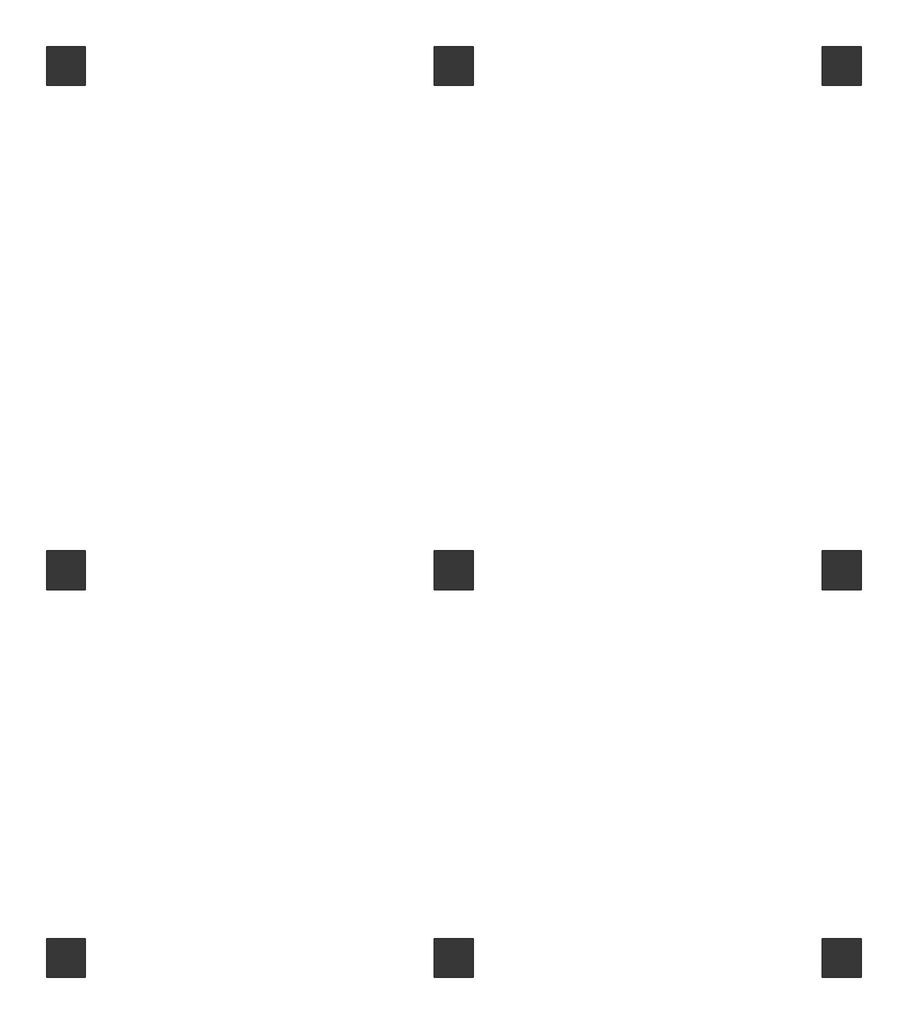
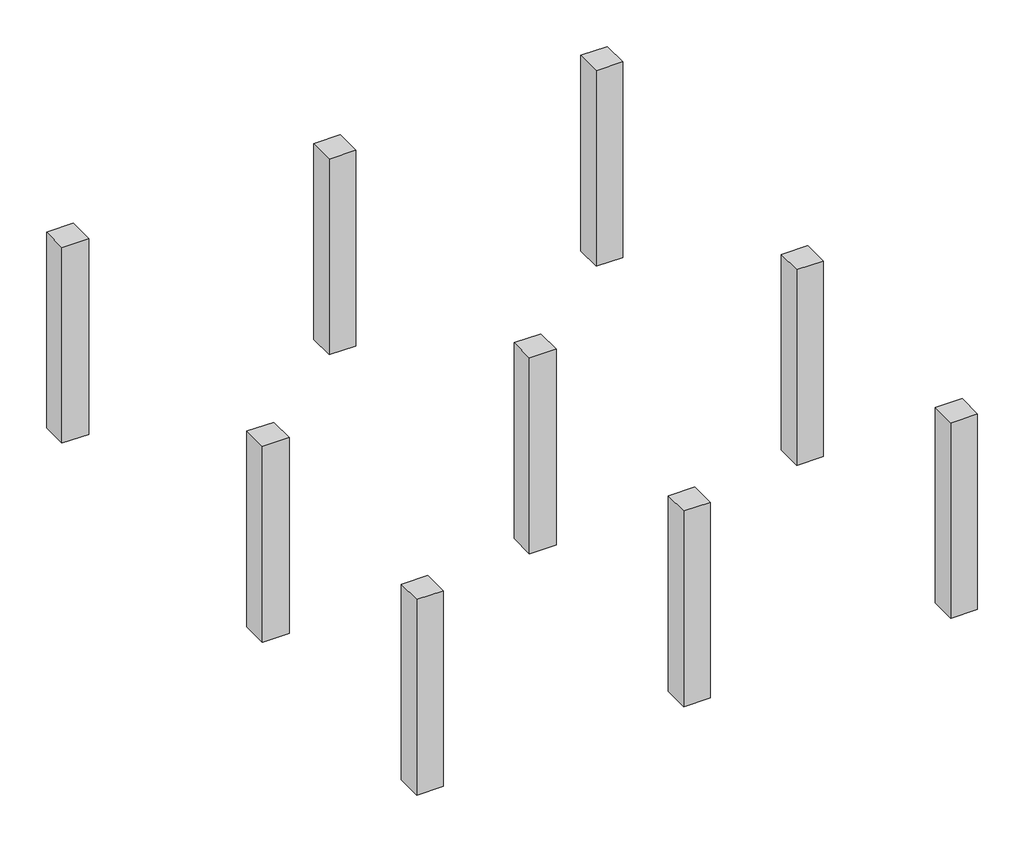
# One storey: 9 columns.
"""IFC4 building model written with IfcOpenShell, lengths in millimetres."""

import ifcopenshell
import ifcopenshell.guid

model = None  # the IFC model being written
_history = None  # IfcOwnerHistory: only IFC2X3 demands one
_inside = {}  # id of a spatial element -> (the spatial element, [elements in it])
_under = {}  # id of a project, library or spatial element -> (it, [spatial elements below it])
_declared = {}  # id of a project -> (the project, [libraries it declares])
_typed = {}  # id of a type object -> (the type object, [elements of that type])
_made_of = {}  # id of a material, layer set ... -> (it, [elements and type objects made of it])


def new_model(schema):
    """Start an empty IFC model of exactly this schema.

    Asked for "IFC4X3", IfcOpenShell would pick the latest addendum, in which some entities
    have other attributes; the version numbers below select the first issue.
    IFC2X3 requires an IfcOwnerHistory on every rooted entity: one is made here for all.
    """
    global model, _history
    if schema == "IFC4X3":
        model = ifcopenshell.file(schema_version=(4, 3, 0, 0))
    else:
        model = ifcopenshell.file(schema=schema)
    _inside.clear()
    _under.clear()
    _declared.clear()
    _typed.clear()
    _made_of.clear()
    _history = None
    if model.schema == "IFC2X3":
        org = make("IfcOrganization", Name="unknown")
        user = make(
            "IfcPersonAndOrganization",
            ThePerson=make("IfcPerson", FamilyName="unknown"),
            TheOrganization=org,
        )
        app = make(
            "IfcApplication",
            ApplicationDeveloper=org,
            Version="unknown",
            ApplicationFullName="unknown",
            ApplicationIdentifier="unknown",
        )
        _history = make(
            "IfcOwnerHistory",
            OwningUser=user,
            OwningApplication=app,
            ChangeAction="ADDED",
            CreationDate=0,
        )
    return model


def make(cls, **values):
    """One entity of the class cls with the attributes given. An attribute that is None is left unset."""
    return model.create_entity(
        cls, **{name: value for name, value in values.items() if value is not None}
    )


def rooted(cls, **values):
    """An entity with a GlobalId (a new one), such as an element, a storey or a relation."""
    return make(cls, GlobalId=ifcopenshell.guid.new(), OwnerHistory=_history, **values)


def si_unit(unit_type, name, prefix=None):
    """IfcSIUnit, for example si_unit("LENGTHUNIT", "METRE", prefix="MILLI")."""
    return make("IfcSIUnit", UnitType=unit_type, Prefix=prefix, Name=name)


def assignment(units):
    """IfcUnitAssignment: the units of a project."""
    return None if units is None else make("IfcUnitAssignment", Units=units)


def point(xyz):
    """IfcCartesianPoint."""
    return None if xyz is None else make("IfcCartesianPoint", Coordinates=xyz)


def direction(xyz):
    """IfcDirection."""
    return None if xyz is None else make("IfcDirection", DirectionRatios=xyz)


def frame(location, z_axis=None, x_axis=None):
    """IfcAxis2Placement3D, a coordinate frame: its origin and axes. An axis left out is left unset."""
    return make(
        "IfcAxis2Placement3D",
        Location=point(location),
        Axis=direction(z_axis),
        RefDirection=direction(x_axis),
    )


def origin():
    """The frame at (0, 0, 0) with its axes left unset."""
    return frame((0.0, 0.0, 0.0))


def place(relative_to, where):
    """IfcLocalPlacement: puts the frame where relative to a parent placement (None: the world)."""
    return make(
        "IfcLocalPlacement", PlacementRelTo=relative_to, RelativePlacement=where
    )


def context(
    kind, dimensions, precision=None, world=None, true_north=None, identifier=None
):
    """IfcGeometricRepresentationContext, for example the 3D "Model" context."""
    return make(
        "IfcGeometricRepresentationContext",
        ContextIdentifier=identifier,
        ContextType=kind,
        CoordinateSpaceDimension=dimensions,
        Precision=precision,
        WorldCoordinateSystem=world,
        TrueNorth=true_north,
    )


def project(units=None, contexts=None):
    """IfcProject with its units and contexts."""
    return rooted(
        "IfcProject",
        Name="project",
        RepresentationContexts=contexts,
        UnitsInContext=assignment(units),
    )


def spatial(cls, under=None, at=None, **own):
    """A site, building, storey or space (cls), placed at a placement, below another one or the project."""
    s = rooted(cls, ObjectPlacement=at, **own)
    if under is not None:
        _under.setdefault(under.id(), (under, []))[1].append(s)
    return s


def polyline(points):
    """IfcPolyline through the points."""
    return make("IfcPolyline", Points=[point(p) for p in points])


def outline(outer, holes=None, kind="AREA"):
    """IfcArbitraryClosedProfileDef: a profile drawn as a closed curve; with holes, ...WithVoids."""
    if holes is None:
        return make("IfcArbitraryClosedProfileDef", ProfileType=kind, OuterCurve=outer)
    return make(
        "IfcArbitraryProfileDefWithVoids",
        ProfileType=kind,
        OuterCurve=outer,
        InnerCurves=holes,
    )


def extrude(swept, where, along, depth):
    """IfcExtrudedAreaSolid: the profile swept, set in the frame where, extruded along a direction by depth."""
    return make(
        "IfcExtrudedAreaSolid",
        SweptArea=swept,
        Position=where,
        ExtrudedDirection=direction(along),
        Depth=depth,
    )


def shape(context_of_items, identifier, shape_type, items):
    """IfcShapeRepresentation: the items that make up one representation, for example the "Body"."""
    return make(
        "IfcShapeRepresentation",
        ContextOfItems=context_of_items,
        RepresentationIdentifier=identifier,
        RepresentationType=shape_type,
        Items=items,
    )


def made_of(thing, what):
    """Note that an element or type object is made of a material, layer set ...; save() writes the relation."""
    if what is not None:
        _made_of.setdefault(what.id(), (what, []))[1].append(thing)
    return thing


def element(
    cls,
    number,
    at=None,
    inside=None,
    cuts=None,
    type_object=None,
    material=None,
    context=None,
    identifier="Body",
    shape_type=None,
    held_by="IfcProductDefinitionShape",
    body=None,
    shapes=None,
    **own,
):
    """One element of the class cls, such as IfcWall. Its Tag is "e" and its number.

    at: its placement. inside: the storey or other place that contains it. cuts: it is an
    opening in that element (IfcRelVoidsElement). A single representation is given by context,
    identifier, shape_type and body (its items); several are given by shapes. held_by: the class
    of the entity that holds the representations. save() writes the other relations.
    """
    e = rooted(cls, Tag="e%d" % number, ObjectPlacement=at, **own)
    if body is not None:
        shapes = [shape(context, identifier, shape_type, body)]
    if shapes is not None:
        e.Representation = make(held_by, Representations=shapes)
    if inside is not None:
        _inside.setdefault(inside.id(), (inside, []))[1].append(e)
    if cuts is not None:
        rooted(
            "IfcRelVoidsElement", RelatingBuildingElement=cuts, RelatedOpeningElement=e
        )
    if type_object is not None:
        _typed.setdefault(type_object.id(), (type_object, []))[1].append(e)
    return made_of(e, material)


def aggregate(whole, parts):
    """IfcRelAggregates: a whole, such as a stair, and the parts it consists of."""
    return rooted("IfcRelAggregates", RelatingObject=whole, RelatedObjects=parts)


def save(model, path):
    """Write the relations noted so far, then the file.

    IfcRelAggregates (storeys below a building ...), IfcRelContainedInSpatialStructure (elements
    in a storey), IfcRelDefinesByType, IfcRelAssociatesMaterial and IfcRelDeclares: one each for
    every whole, place, type object, material and project.
    """
    for whole, parts in _under.values():
        aggregate(whole, parts)
    for where, things in _inside.values():
        rooted(
            "IfcRelContainedInSpatialStructure",
            RelatedElements=things,
            RelatingStructure=where,
        )
    for kind, things in _typed.values():
        rooted("IfcRelDefinesByType", RelatedObjects=things, RelatingType=kind)
    for what, things in _made_of.values():
        rooted("IfcRelAssociatesMaterial", RelatedObjects=things, RelatingMaterial=what)
    for by, libraries in _declared.values():
        rooted("IfcRelDeclares", RelatingContext=by, RelatedDefinitions=libraries)
    model.write(path)


model = new_model("IFC4")

# Units and contexts
model_context = context("Model", 3, world=origin())
ifc_project = project(units=[si_unit("LENGTHUNIT", "METRE", prefix="MILLI")], contexts=[model_context])

# Site, building, storey
site = spatial("IfcSite", under=ifc_project)
building = spatial("IfcBuilding", under=site)
storey = spatial("IfcBuildingStorey", under=building, Name="T.O.F", Elevation=-1676.4)

# Columns
placement = place(None, origin())
element("IfcColumn", 1, ObjectType="Concrete-Rectangular-Column : 24x24", at=placement, inside=storey, context=model_context, shape_type="SweptSolid", body=[
    extrude(outline(polyline([(-28959.8783408, 4197.4963551), (-28959.8783408, 4807.0963551), (-28350.2783408, 4807.0963551), (-28350.2783408, 4197.4963551), (-28959.8783408, 4197.4963551)])), frame((0.0, 0.0, -1676.4), z_axis=(0.0, 0.0, 1.0), x_axis=(1.0, 0.0, 0.0)), (0.0, 0.0, 1.0), 4724.4),
])
element("IfcColumn", 2, ObjectType="Concrete-Rectangular-Column : 24x24", at=placement, inside=storey, context=model_context, shape_type="SweptSolid", body=[
    extrude(outline(polyline([(-28959.8783408, -1898.5036449), (-28959.8783408, -1288.9036449), (-28350.2783408, -1288.9036449), (-28350.2783408, -1898.5036449), (-28959.8783408, -1898.5036449)])), frame((0.0, 0.0, -1676.4), z_axis=(0.0, 0.0, 1.0), x_axis=(1.0, 0.0, 0.0)), (0.0, 0.0, 1.0), 4724.4),
])
element("IfcColumn", 3, ObjectType="Concrete-Rectangular-Column : 24x24", at=placement, inside=storey, context=model_context, shape_type="SweptSolid", body=[
    extrude(outline(polyline([(-28959.8783408, 12122.2963551), (-28959.8783408, 12731.8963551), (-28350.2783408, 12731.8963551), (-28350.2783408, 12122.2963551), (-28959.8783408, 12122.2963551)])), frame((0.0, 0.0, -1676.4), z_axis=(0.0, 0.0, 1.0), x_axis=(1.0, 0.0, 0.0)), (0.0, 0.0, 1.0), 4724.4),
])
element("IfcColumn", 4, ObjectType="Concrete-Rectangular-Column : 24x24", at=placement, inside=storey, context=model_context, shape_type="SweptSolid", body=[
    extrude(outline(polyline([(-35055.8783408, 4197.4963551), (-35055.8783408, 4807.0963551), (-34446.2783408, 4807.0963551), (-34446.2783408, 4197.4963551), (-35055.8783408, 4197.4963551)])), frame((0.0, 0.0, -1676.4), z_axis=(0.0, 0.0, 1.0), x_axis=(1.0, 0.0, 0.0)), (0.0, 0.0, 1.0), 4724.4),
])
element("IfcColumn", 5, ObjectType="Concrete-Rectangular-Column : 24x24", at=placement, inside=storey, context=model_context, shape_type="SweptSolid", body=[
    extrude(outline(polyline([(-35055.8783408, -1898.5036449), (-35055.8783408, -1288.9036449), (-34446.2783408, -1288.9036449), (-34446.2783408, -1898.5036449), (-35055.8783408, -1898.5036449)])), frame((0.0, 0.0, -1676.4), z_axis=(0.0, 0.0, 1.0), x_axis=(1.0, 0.0, 0.0)), (0.0, 0.0, 1.0), 4724.4),
])
element("IfcColumn", 6, ObjectType="Concrete-Rectangular-Column : 24x24", at=placement, inside=storey, context=model_context, shape_type="SweptSolid", body=[
    extrude(outline(polyline([(-35055.8783408, 12122.2963551), (-35055.8783408, 12731.8963551), (-34446.2783408, 12731.8963551), (-34446.2783408, 12122.2963551), (-35055.8783408, 12122.2963551)])), frame((0.0, 0.0, -1676.4), z_axis=(0.0, 0.0, 1.0), x_axis=(1.0, 0.0, 0.0)), (0.0, 0.0, 1.0), 4724.4),
])
element("IfcColumn", 7, ObjectType="Concrete-Rectangular-Column : 24x24", at=placement, inside=storey, context=model_context, shape_type="SweptSolid", body=[
    extrude(outline(polyline([(-41151.8783408, 4197.4963551), (-41151.8783408, 4807.0963551), (-40542.2783408, 4807.0963551), (-40542.2783408, 4197.4963551), (-41151.8783408, 4197.4963551)])), frame((0.0, 0.0, -1676.4), z_axis=(0.0, 0.0, 1.0), x_axis=(1.0, 0.0, 0.0)), (0.0, 0.0, 1.0), 4724.4),
])
element("IfcColumn", 8, ObjectType="Concrete-Rectangular-Column : 24x24", at=placement, inside=storey, context=model_context, shape_type="SweptSolid", body=[
    extrude(outline(polyline([(-41151.8783408, -1898.5036449), (-41151.8783408, -1288.9036449), (-40542.2783408, -1288.9036449), (-40542.2783408, -1898.5036449), (-41151.8783408, -1898.5036449)])), frame((0.0, 0.0, -1676.4), z_axis=(0.0, 0.0, 1.0), x_axis=(1.0, 0.0, 0.0)), (0.0, 0.0, 1.0), 4724.4),
])
element("IfcColumn", 9, ObjectType="Concrete-Rectangular-Column : 24x24", at=placement, inside=storey, context=model_context, shape_type="SweptSolid", body=[
    extrude(outline(polyline([(-41151.8783408, 12122.2963551), (-41151.8783408, 12731.8963551), (-40542.2783408, 12731.8963551), (-40542.2783408, 12122.2963551), (-41151.8783408, 12122.2963551)])), frame((0.0, 0.0, -1676.4), z_axis=(0.0, 0.0, 1.0), x_axis=(1.0, 0.0, 0.0)), (0.0, 0.0, 1.0), 4724.4),
])

save(model, "model.ifc")
